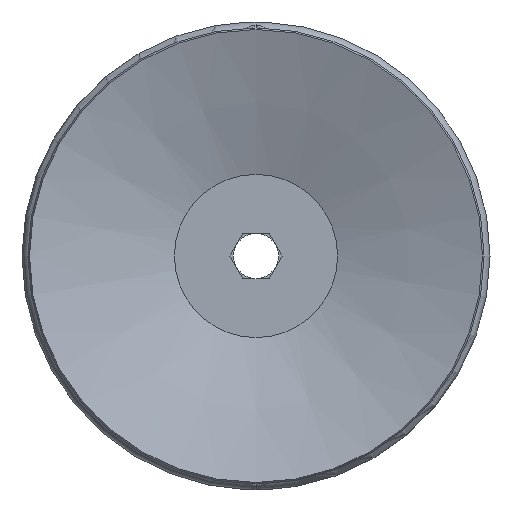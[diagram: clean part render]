
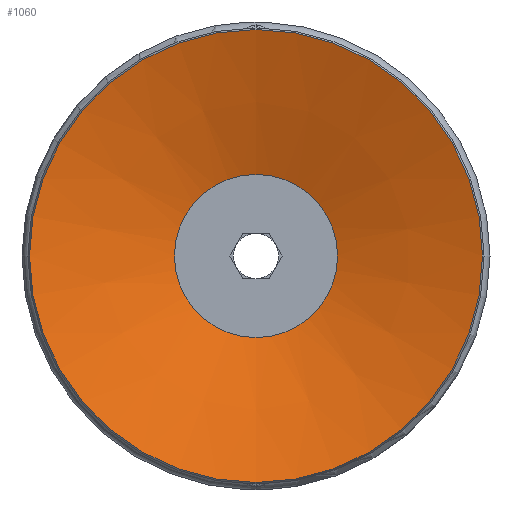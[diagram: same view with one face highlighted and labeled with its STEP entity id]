
A CAD part, front view. The second image highlights one B-rep face of the part: STEP entity #1060.
In plain terms, the highlighted conical face has half-angle 71.075 degrees and reference radius 15 mm.
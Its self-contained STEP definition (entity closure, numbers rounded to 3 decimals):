
#1060=ADVANCED_FACE('',(#2716,#2717),#2718,.F.);
#2716=FACE_BOUND('',#5061,.T.);
#2717=FACE_OUTER_BOUND('',#5062,.T.);
#2718=CONICAL_SURFACE('',#5063,15.0,1.24);
#5061=EDGE_LOOP('',(#8234));
#5062=EDGE_LOOP('',(#8235));
#5063=AXIS2_PLACEMENT_3D('',#8236,#8237,#8238);
#8234=ORIENTED_EDGE('',*,*,#15201,.T.);
#8235=ORIENTED_EDGE('',*,*,#15202,.T.);
#8236=CARTESIAN_POINT('',(0.,0.,0.0));
#8237=DIRECTION('',(0.0,0.,-1.0));
#8238=DIRECTION('',(0.0,1.0,0.));
#15201=EDGE_CURVE('',#18736,#18736,#18737,.T.);
#15202=EDGE_CURVE('',#18738,#18738,#18739,.T.);
#18736=VERTEX_POINT('',#24805);
#18737=CIRCLE('',#24806,5.4);
#18738=VERTEX_POINT('',#24807);
#18739=CIRCLE('',#24808,15.0);
#24805=CARTESIAN_POINT('',(-5.4,0.,3.291));
#24806=AXIS2_PLACEMENT_3D('',#30363,#30364,#30365);
#24807=CARTESIAN_POINT('',(0.,15.0,0.));
#24808=AXIS2_PLACEMENT_3D('',#30366,#30367,#30368);
#30363=CARTESIAN_POINT('',(0.,0.,3.291));
#30364=DIRECTION('',(0.,0.0,1.0));
#30365=DIRECTION('',(-1.0,0.0,0.));
#30366=CARTESIAN_POINT('',(0.,0.,0.0));
#30367=DIRECTION('',(0.0,0.,-1.0));
#30368=DIRECTION('',(0.0,1.0,0.));
